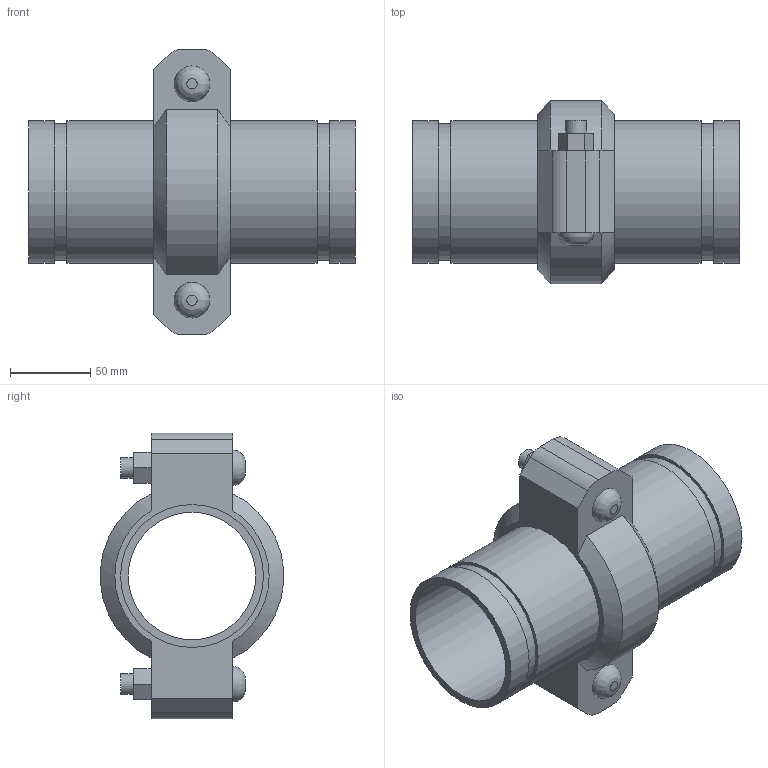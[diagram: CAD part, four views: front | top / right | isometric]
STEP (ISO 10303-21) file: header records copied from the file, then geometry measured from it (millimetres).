
FILE_DESCRIPTION(/* description */ ('VIC SS EXPANSION JOINT 1 COUPLING COMPRESSED STYLE 155P (OGS) (POTABLE WATER) ','CAx-IF Rec.Pracs.---Representation and Presentation of Product Manufacturing Information (PMI)---4.0---2014-10-13'),/* implementation_level */ '2;1');
FILE_NAME(/* name */ 'C:\Users\kkamble\AppData\Roaming\Autodesk\ApplicationPlugins\Victaulic.Temp\A829\Victaulic_SS_Expansion Joint_Compressed_1 Coupling_Style 155P (OGS)-Potable Water_1 Coup_Comp_3 (80).stp',/* time_stamp */ '2021-07-16T17:04:00+06:00',/* author */ ('kkamble'),/* organization */ ('Victaulic'),/* preprocessor_version */ 'ST-DEVELOPER v17.2',/* originating_system */ 'Autodesk Inventor 2019',/* authorisation */ '');
FILE_SCHEMA (('AP242_MANAGED_MODEL_BASED_3D_ENGINEERING_MIM_LF { 1 0 10303 442 1 1 4 }'));
Length unit declared in the file: inch
Products named in the file (3): 155P-03.0; Nipple-03.0; 075-03.0
Assembly tree (3 placements, depth 2):
  155P-03.0
    Nipple-03.0  x2
    075-03.0
Bounding box: 203.2 x 113.88 x 177.8 mm (x, y, z)
Volume: 571461.9 mm3; surface area: 175727.6 mm2
Topology: 3 solids, 5 shells, 77 faces, 187 edges, 134 vertices
Faces by surface type: plane 46, cylinder 25, cone 4, bspline 2
Full cylindrical faces by diameter (mm): 12.7 x4, 14.605 x2, 79.35 x2, 84.938 x4, 88.9 x7
Entity records: 2189 total; most frequent: CARTESIAN_POINT 406, DIRECTION 351, ORIENTED_EDGE 314, EDGE_CURVE 157, AXIS2_PLACEMENT_3D 133, VERTEX_POINT 110, LINE 85, VECTOR 85
